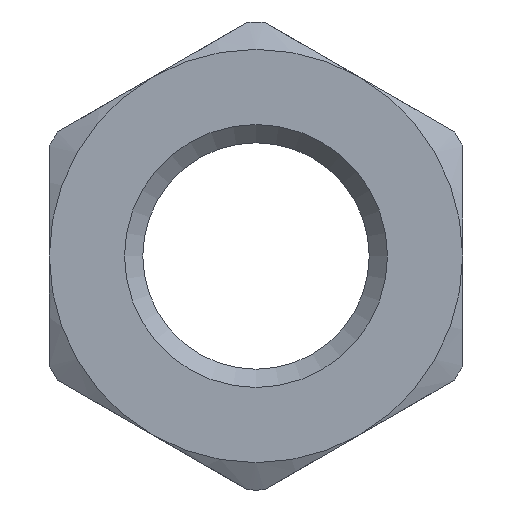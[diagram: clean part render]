
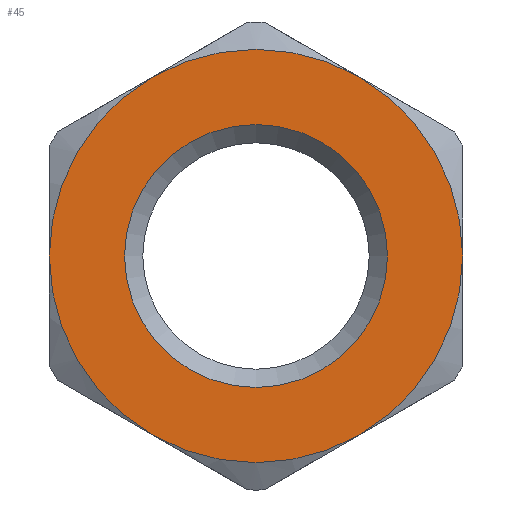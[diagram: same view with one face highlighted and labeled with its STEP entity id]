
A CAD part, front view. The second image highlights one B-rep face of the part: STEP entity #45.
In plain terms, the highlighted planar face has unit normal (0, -1, 0).
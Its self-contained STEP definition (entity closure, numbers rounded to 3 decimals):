
#45=ADVANCED_FACE('',(#77,#79),#81,.F.);
#77=FACE_BOUND('',#78,.T.);
#78=EDGE_LOOP('',(#254,#255,#256,#257));
#79=FACE_BOUND('',#80,.T.);
#80=EDGE_LOOP('',(#258));
#81=PLANE('',#82);
#82=AXIS2_PLACEMENT_3D('',#83,#84,#85);
#83=CARTESIAN_POINT('',(0.,0.,0.));
#84=DIRECTION('',(0.,1.,0.));
#85=DIRECTION('',(-1.,0.,0.));
#254=ORIENTED_EDGE('',*,*,#356,.T.);
#255=ORIENTED_EDGE('',*,*,#357,.T.);
#256=ORIENTED_EDGE('',*,*,#358,.T.);
#257=ORIENTED_EDGE('',*,*,#359,.T.);
#258=ORIENTED_EDGE('',*,*,#360,.T.);
#356=EDGE_CURVE('',#409,#410,#411,.F.);
#357=EDGE_CURVE('',#410,#412,#413,.F.);
#358=EDGE_CURVE('',#412,#414,#415,.F.);
#359=EDGE_CURVE('',#414,#409,#416,.F.);
#360=EDGE_CURVE('',#417,#417,#418,.T.);
#409=VERTEX_POINT('',#501);
#410=VERTEX_POINT('',#502);
#411=CIRCLE('',#503,17.);
#412=VERTEX_POINT('',#507);
#413=CIRCLE('',#508,17.);
#414=VERTEX_POINT('',#512);
#415=CIRCLE('',#513,17.);
#416=CIRCLE('',#517,17.);
#417=VERTEX_POINT('',#521);
#418=CIRCLE('',#522,10.816);
#501=CARTESIAN_POINT('',(17.,0.,0.));
#502=CARTESIAN_POINT('',(-8.5,0.,14.722));
#503=AXIS2_PLACEMENT_3D('',#504,#505,#506);
#504=CARTESIAN_POINT('',(0.,0.,0.));
#505=DIRECTION('',(0.,1.,0.));
#506=DIRECTION('',(-0.5,0.,0.866));
#507=CARTESIAN_POINT('',(-17.,0.,0.));
#508=AXIS2_PLACEMENT_3D('',#509,#510,#511);
#509=CARTESIAN_POINT('',(0.,0.,0.));
#510=DIRECTION('',(0.,1.,0.));
#511=DIRECTION('',(-1.,0.,0.));
#512=CARTESIAN_POINT('',(-8.5,0.,-14.722));
#513=AXIS2_PLACEMENT_3D('',#514,#515,#516);
#514=CARTESIAN_POINT('',(0.,0.,0.));
#515=DIRECTION('',(0.,1.,0.));
#516=DIRECTION('',(-0.5,0.,-0.866));
#517=AXIS2_PLACEMENT_3D('',#518,#519,#520);
#518=CARTESIAN_POINT('',(0.,0.,0.));
#519=DIRECTION('',(0.,1.,0.));
#520=DIRECTION('',(1.,0.,0.));
#521=CARTESIAN_POINT('',(-10.816,0.,0.));
#522=AXIS2_PLACEMENT_3D('',#523,#524,#525);
#523=CARTESIAN_POINT('',(0.,0.,0.));
#524=DIRECTION('',(0.,1.,0.));
#525=DIRECTION('',(-1.,0.,0.));
